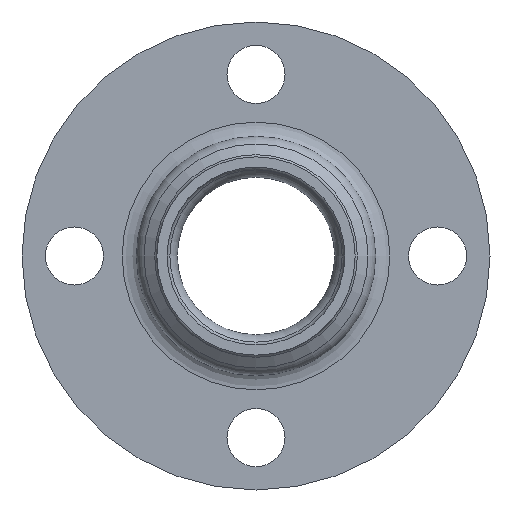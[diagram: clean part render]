
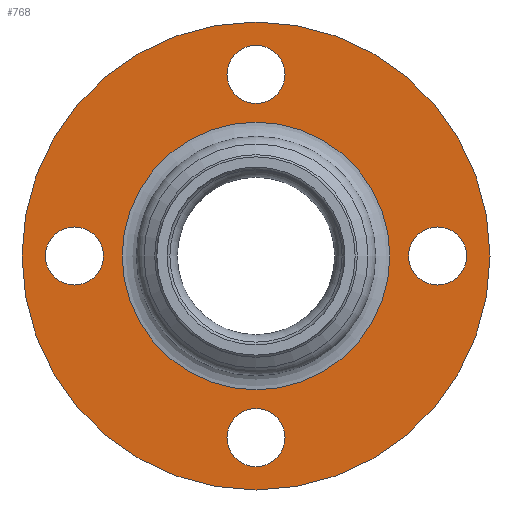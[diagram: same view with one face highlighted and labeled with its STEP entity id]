
A CAD part, left-side view. The second image highlights one B-rep face of the part: STEP entity #768.
In plain terms, the highlighted planar face has unit normal (-1, 0, 0).
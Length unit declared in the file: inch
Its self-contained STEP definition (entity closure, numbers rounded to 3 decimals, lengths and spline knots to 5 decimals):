
#49=FACE_BOUND('',#118,.T.);
#50=FACE_BOUND('',#119,.T.);
#51=FACE_BOUND('',#120,.T.);
#52=FACE_BOUND('',#121,.T.);
#53=FACE_BOUND('',#122,.T.);
#62=PLANE('',#839);
#84=FACE_OUTER_BOUND('',#117,.T.);
#117=EDGE_LOOP('',(#515,#516));
#118=EDGE_LOOP('',(#517));
#119=EDGE_LOOP('',(#518));
#120=EDGE_LOOP('',(#519));
#121=EDGE_LOOP('',(#520));
#122=EDGE_LOOP('',(#521,#522));
#192=CIRCLE('',#819,0.31);
#195=CIRCLE('',#823,0.31);
#198=CIRCLE('',#827,0.31);
#201=CIRCLE('',#831,0.31);
#204=CIRCLE('',#835,1.42961);
#205=CIRCLE('',#836,1.42961);
#208=CIRCLE('',#840,2.5);
#209=CIRCLE('',#841,2.5);
#290=VERTEX_POINT('',#1272);
#293=VERTEX_POINT('',#1280);
#296=VERTEX_POINT('',#1288);
#299=VERTEX_POINT('',#1296);
#302=VERTEX_POINT('',#1303);
#303=VERTEX_POINT('',#1305);
#305=VERTEX_POINT('',#1312);
#306=VERTEX_POINT('',#1313);
#377=EDGE_CURVE('',#290,#290,#192,.T.);
#381=EDGE_CURVE('',#293,#293,#195,.T.);
#385=EDGE_CURVE('',#296,#296,#198,.T.);
#389=EDGE_CURVE('',#299,#299,#201,.T.);
#392=EDGE_CURVE('',#302,#303,#204,.T.);
#393=EDGE_CURVE('',#303,#302,#205,.T.);
#396=EDGE_CURVE('',#305,#306,#208,.T.);
#397=EDGE_CURVE('',#306,#305,#209,.T.);
#515=ORIENTED_EDGE('',*,*,#396,.F.);
#516=ORIENTED_EDGE('',*,*,#397,.F.);
#517=ORIENTED_EDGE('',*,*,#377,.T.);
#518=ORIENTED_EDGE('',*,*,#381,.T.);
#519=ORIENTED_EDGE('',*,*,#385,.T.);
#520=ORIENTED_EDGE('',*,*,#389,.T.);
#521=ORIENTED_EDGE('',*,*,#393,.F.);
#522=ORIENTED_EDGE('',*,*,#392,.F.);
#768=ADVANCED_FACE('',(#84,#49,#50,#51,#52,#53),#62,.T.);
#819=AXIS2_PLACEMENT_3D('',#1274,#969,#970);
#823=AXIS2_PLACEMENT_3D('',#1282,#978,#979);
#827=AXIS2_PLACEMENT_3D('',#1290,#987,#988);
#831=AXIS2_PLACEMENT_3D('',#1298,#996,#997);
#835=AXIS2_PLACEMENT_3D('',#1306,#1004,#1005);
#836=AXIS2_PLACEMENT_3D('',#1307,#1006,#1007);
#839=AXIS2_PLACEMENT_3D('',#1311,#1012,#1013);
#840=AXIS2_PLACEMENT_3D('',#1314,#1014,#1015);
#841=AXIS2_PLACEMENT_3D('',#1315,#1016,#1017);
#969=DIRECTION('center_axis',(1.,0.,0.));
#970=DIRECTION('ref_axis',(0.,-1.,0.));
#978=DIRECTION('center_axis',(1.,0.,0.));
#979=DIRECTION('ref_axis',(0.,0.,1.));
#987=DIRECTION('center_axis',(1.,0.,0.));
#988=DIRECTION('ref_axis',(0.,1.,0.));
#996=DIRECTION('center_axis',(1.,0.,0.));
#997=DIRECTION('ref_axis',(0.,0.,-1.));
#1004=DIRECTION('center_axis',(-1.,0.,0.));
#1005=DIRECTION('ref_axis',(0.,-1.,0.));
#1006=DIRECTION('center_axis',(-1.,0.,0.));
#1007=DIRECTION('ref_axis',(0.,-1.,0.));
#1012=DIRECTION('center_axis',(-1.,0.,0.));
#1013=DIRECTION('ref_axis',(0.,0.,1.));
#1014=DIRECTION('center_axis',(1.,0.,0.));
#1015=DIRECTION('ref_axis',(0.,1.,0.));
#1016=DIRECTION('center_axis',(1.,0.,0.));
#1017=DIRECTION('ref_axis',(0.,1.,0.));
#1272=CARTESIAN_POINT('',(1.115,0.31,-1.94));
#1274=CARTESIAN_POINT('Origin',(1.115,0.,-1.94));
#1280=CARTESIAN_POINT('',(1.115,-1.94,-0.31));
#1282=CARTESIAN_POINT('Origin',(1.115,-1.94,0.));
#1288=CARTESIAN_POINT('',(1.115,-0.31,1.94));
#1290=CARTESIAN_POINT('Origin',(1.115,0.,1.94));
#1296=CARTESIAN_POINT('',(1.115,1.94,0.31));
#1298=CARTESIAN_POINT('Origin',(1.115,1.94,0.));
#1303=CARTESIAN_POINT('',(1.115,0.,1.42961));
#1305=CARTESIAN_POINT('',(1.115,1.42961,0.));
#1306=CARTESIAN_POINT('Origin',(1.115,0.,0.));
#1307=CARTESIAN_POINT('Origin',(1.115,0.,0.));
#1311=CARTESIAN_POINT('Origin',(1.115,1.89,0.));
#1312=CARTESIAN_POINT('',(1.115,2.5,0.));
#1313=CARTESIAN_POINT('',(1.115,-2.5,0.));
#1314=CARTESIAN_POINT('Origin',(1.115,0.,0.));
#1315=CARTESIAN_POINT('Origin',(1.115,0.,0.));
